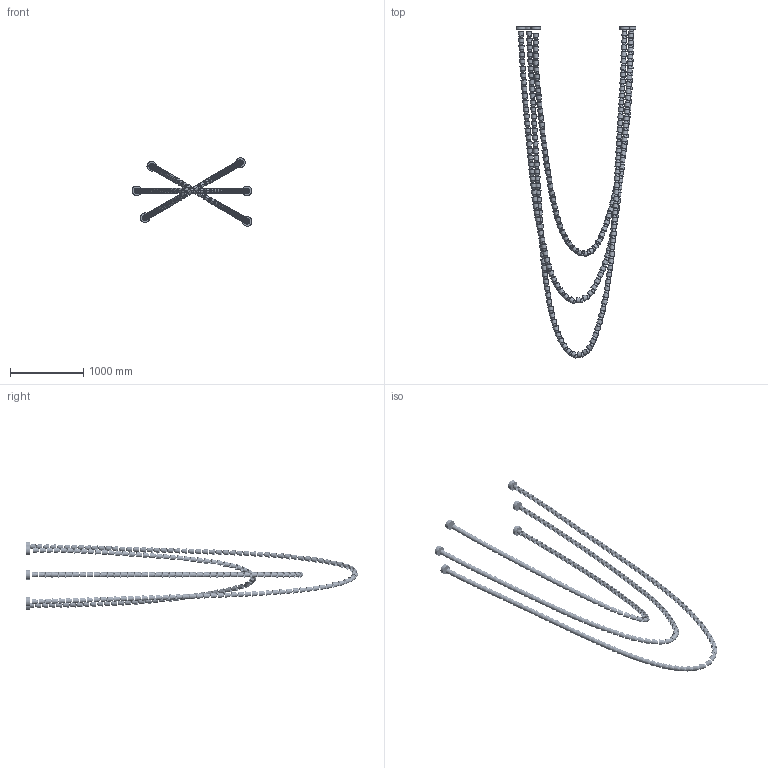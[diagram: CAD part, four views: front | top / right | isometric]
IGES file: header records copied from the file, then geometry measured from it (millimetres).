
Global section: file name: Gabriel Chrome Chandelier-G 249h-D150xH450cm; native system: AutoCAD 2022 - 简体中文 (Simplified Chinese),62HAuto; preprocessor: desk Translation Framework DWG producer (atf_dwg_producer); organization: unknown; date: 20260511.174033; units: millimetre
Bounding box: 1632.79 x 4516.84 x 929.85 mm (x, y, z)
Volume: 19957828.4 mm3; surface area: 8506369.1 mm2
Topology: 255 solids, 255 shells, 2259 faces, 3548 edges, 2052 vertices
Faces by surface type: bspline 2259
